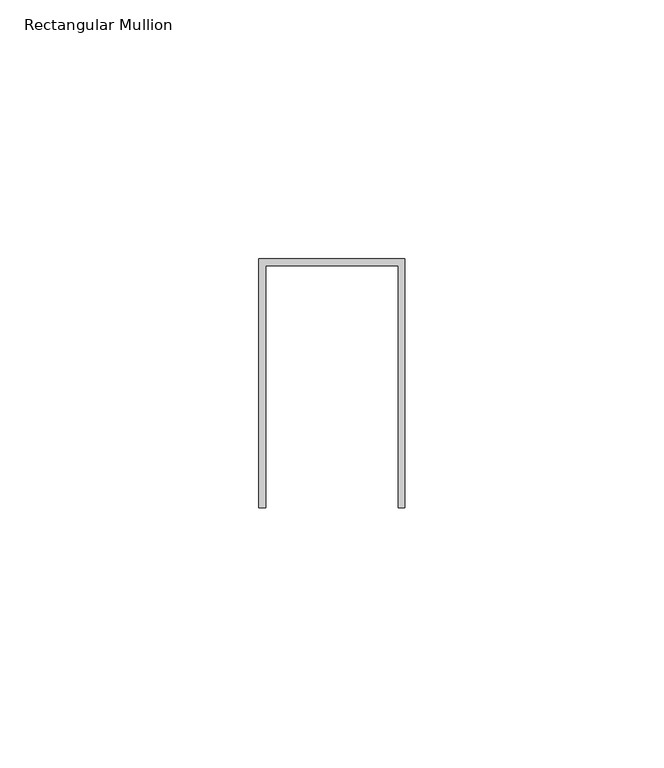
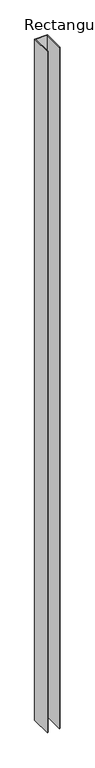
"""IFC4 building model written with IfcOpenShell, lengths in millimetres: member geometry, Rectangular Mullion : Danpal_NM_InetrnalV-Mullion."""

from ifc_helpers import new_model, si_unit, frame, origin, place, context, project, spatial, polyline, outline, extrude, source, transform, mapped, element, save


def rectangular_mullion_9c042f3e(model_context):
    return source(origin(), model_context, "Body", "SweptSolid", [
        extrude(outline(polyline([(12.3125928, 60.8367315), (-13.3125928, 60.8367315), (-13.3125928, 14.0043433), (-14.6380334, 14.0043036), (-14.6380334, 62.1621721), (13.6380334, 62.1621721), (13.6380334, 14.0044958), (12.3125928, 14.0044958), (12.3125928, 60.8367315)])), frame((0.0, 0.0, -1589.047587), z_axis=(0.0, 0.0, 1.0), x_axis=(1.0, 0.0, 0.0)), (0.0, 0.0, 1.0), 1589.047587),
    ])


if __name__ == "__main__":
    model = new_model("IFC4")
    model_context = context("Model", 3, world=origin())
    ifc_project = project(units=[si_unit("LENGTHUNIT", "METRE", prefix="MILLI")], contexts=[model_context])
    site = spatial("IfcSite", under=ifc_project)
    building = spatial("IfcBuilding", under=site)
    placement = place(None, origin())
    rectangular_mullion_shape = rectangular_mullion_9c042f3e(model_context)
    element("IfcMember", 1, ObjectType="Rectangular Mullion : Danpal_NM_InetrnalV-Mullion", at=placement, inside=building, context=model_context, shape_type="MappedRepresentation", body=[
        mapped(rectangular_mullion_shape, transform((0.0, 0.0, 0.0), x_axis=(1.0, 0.0, 0.0), y_axis=(0.0, 1.0, 0.0), z_axis=(0.0, 0.0, 1.0))),
    ])
    save(model, "model.ifc")
